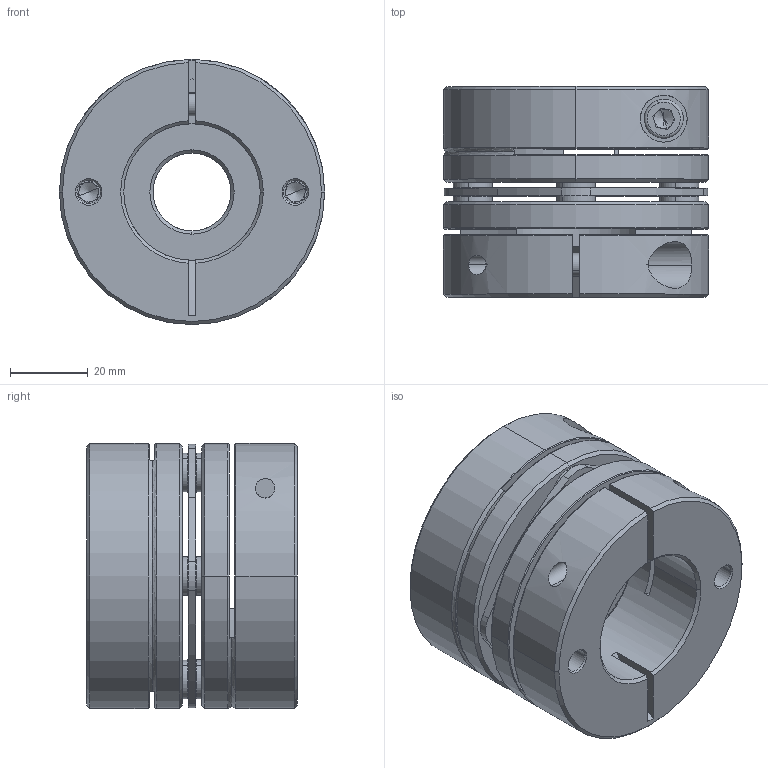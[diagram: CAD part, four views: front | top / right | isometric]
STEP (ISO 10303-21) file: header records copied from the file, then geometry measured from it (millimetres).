
FILE_DESCRIPTION (( 'STEP AP203' ), '1' );
FILE_NAME ('LD1-D68-20-35.STEP', '2021-10-26T07:58:43', ( '' ), ( '' ), 'SwSTEP 2.0', 'SolidWorks 2018', '' );
FILE_SCHEMA (( 'CONFIG_CONTROL_DESIGN' ));
Length unit declared in the file: millimetre
Products named in the file (2): 錨璃101^LD1-D68; LD1-D68-20-35
Assembly tree (1 placements, depth 2):
  LD1-D68-20-35
    錨璃101^LD1-D68
Bounding box: 68 x 54 x 68 mm (x, y, z)
Volume: 136190.1 mm3; surface area: 45352.3 mm2
Topology: 1 solids, 15 shells, 445 faces, 1059 edges, 650 vertices
Faces by surface type: cylinder 163, plane 138, cone 122, torus 22
Entity records: 13459 total; most frequent: CARTESIAN_POINT 2611, DIRECTION 2433, ORIENTED_EDGE 2086, EDGE_CURVE 1043, AXIS2_PLACEMENT_3D 988, VERTEX_POINT 650, CIRCLE 539, EDGE_LOOP 525
